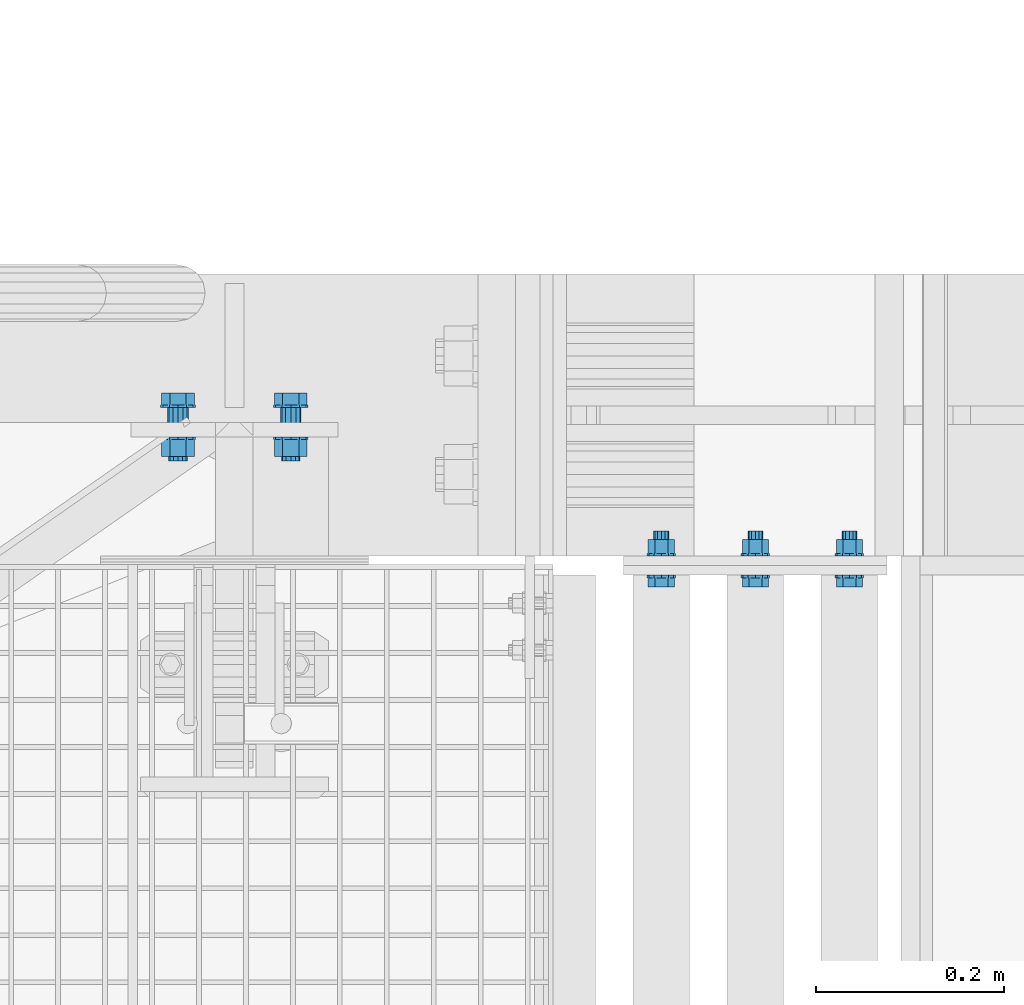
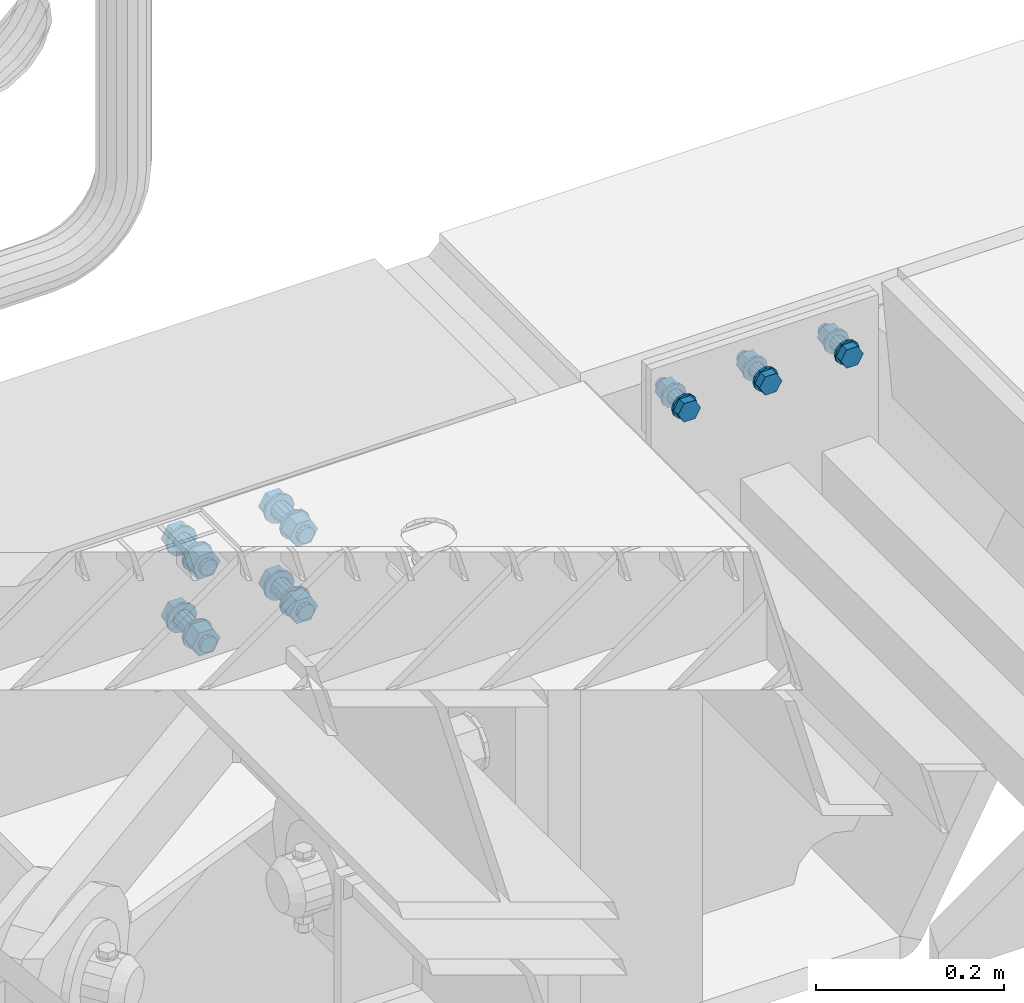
# One storey, part 59 of 1530: 2 mechanical fasteners.
"""IFC2X3 building model written with IfcOpenShell, lengths in millimetres."""

from ifc_helpers import new_model, si_unit, frame, origin_with_axes, place, context, subcontext, project, spatial, faceted_brep, source, transform, mapped, material, type_object, element, save


model = new_model("IFC2X3")

# Units and contexts
model_context = context("Model", 3, precision=1e-05, world=origin_with_axes())
body_context = subcontext(model_context, "Body", "Model", "MODEL_VIEW")
ifc_project = project(units=[si_unit("LENGTHUNIT", "METRE", prefix="MILLI"), si_unit("AREAUNIT", "SQUARE_METRE"), si_unit("VOLUMEUNIT", "CUBIC_METRE"), si_unit("MASSUNIT", "GRAM", prefix="KILO"), si_unit("TIMEUNIT", "SECOND"), si_unit("PLANEANGLEUNIT", "RADIAN"), si_unit("SOLIDANGLEUNIT", "STERADIAN"), si_unit("THERMODYNAMICTEMPERATUREUNIT", "DEGREE_CELSIUS"), si_unit("LUMINOUSINTENSITYUNIT", "LUMEN")], contexts=[model_context])

# Site, building, storey
site_placement = place(None, origin_with_axes())
site = spatial("IfcSite", under=ifc_project, at=site_placement, Name="Brattvåg", CompositionType="ELEMENT")
building_placement = place(site_placement, origin_with_axes())
building = spatial("IfcBuilding", under=site, at=building_placement, Name="Undefined", CompositionType="ELEMENT")
storey_placement = place(building_placement, origin_with_axes())
storey = spatial("IfcBuildingStorey", under=building, at=storey_placement, Name="Undefined", CompositionType="ELEMENT", Elevation=0.0)

# Mechanical fasteners
ifc_material = material(Name="8")
mechanical_fastener_type = type_object("IfcMechanicalFastenerType", Name="Bolt assembly")
shared_shape_1 = source(origin_with_axes(), body_context, "Body", "Brep", [
    faceted_brep([(13.856406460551, -13.0, 0.0), (6.92820323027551, -13.0, 12.0), (-6.92820323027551, -13.0, 12.0), (-13.856406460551, -13.0, 1.69692038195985e-15), (-6.92820323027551, -13.0, -12.0), (6.9282032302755, -13.0, -12.0), (6.9282032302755, -3.0, -12.0), (-6.92820323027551, -3.0, -12.0), (-13.856406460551, -3.0, 1.69692038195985e-15), (-6.92820323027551, -3.0, 12.0), (6.92820323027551, -3.0, 12.0), (13.856406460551, -3.0, 0.0), (8.0, -3.0, 0.0), (6.92820323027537, -3.0, 4.00000000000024), (3.99999999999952, -3.0, 6.92820323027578), (-8.29068785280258e-13, -3.0, 8.0), (-4.00000000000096, -3.0, 6.92820323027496), (-6.9282032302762, -3.0, 3.99999999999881), (-8.0, -3.0, -1.65813757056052e-12), (-6.92820323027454, -3.0, -4.00000000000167), (-3.99999999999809, -3.0, -6.92820323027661), (2.47832457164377e-12, -3.0, -8.0), (4.00000000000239, -3.0, -6.92820323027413), (6.92820323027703, -3.0, -3.99999999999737), (6.92820323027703, 47.0, -3.99999999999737), (4.00000000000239, 47.0, -6.92820323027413), (2.47832457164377e-12, 47.0, -8.0), (-3.99999999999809, 47.0, -6.92820323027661), (-6.92820323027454, 47.0, -4.00000000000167), (-8.0, 47.0, -1.65813757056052e-12), (-6.9282032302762, 47.0, 3.99999999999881), (-4.00000000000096, 47.0, 6.92820323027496), (-8.29068785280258e-13, 47.0, 8.0), (3.99999999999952, 47.0, 6.92820323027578), (6.92820323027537, 47.0, 4.00000000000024), (8.0, 47.0, 0.0), (15.0, -3.0, 0.0), (12.9903810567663, -3.0, 7.50000000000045), (7.4999999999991, -3.0, 12.9903810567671), (-1.55450397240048e-12, -3.0, 15.0), (-7.50000000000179, -3.0, 12.9903810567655), (-12.9903810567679, -3.0, 7.49999999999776), (-15.0, -3.0, -3.10900794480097e-12), (-12.9903810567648, -3.0, -7.50000000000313), (-7.49999999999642, -3.0, -12.9903810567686), (4.64685857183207e-12, -3.0, -15.0), (7.50000000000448, -3.0, -12.990381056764), (12.9903810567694, -3.0, -7.49999999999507), (12.9903810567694, 0.0, -7.49999999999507), (7.50000000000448, 0.0, -12.990381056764), (0.0, 0.0, -15.0), (-7.49999999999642, 0.0, -12.9903810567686), (-12.9903810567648, 0.0, -7.50000000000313), (-15.0, 0.0, -3.10900794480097e-12), (-12.9903810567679, 0.0, 7.49999999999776), (-7.50000000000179, 0.0, 12.9903810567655), (0.0, 0.0, 15.0), (7.4999999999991, 0.0, 12.9903810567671), (12.9903810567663, 0.0, 7.50000000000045), (15.0, 0.0, 0.0), (15.0, 20.0002288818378, 0.0), (12.9903810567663, 20.0002288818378, 7.50000000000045), (7.4999999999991, 20.0002288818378, 12.9903810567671), (-1.55450397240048e-12, 20.0002288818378, 15.0), (-7.50000000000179, 20.0002288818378, 12.9903810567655), (-12.9903810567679, 20.0002288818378, 7.49999999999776), (-15.0, 20.0002288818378, -3.10900794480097e-12), (-12.9903810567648, 20.0002288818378, -7.50000000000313), (-7.49999999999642, 20.0002288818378, -12.9903810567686), (4.64685857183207e-12, 20.0002288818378, -15.0), (7.50000000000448, 20.0002288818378, -12.990381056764), (12.9903810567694, 20.0002288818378, -7.49999999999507), (12.9903810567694, 23.0002288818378, -7.49999999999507), (7.50000000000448, 23.0002288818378, -12.990381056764), (4.64685857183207e-12, 23.0002288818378, -15.0), (-7.49999999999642, 23.0002288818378, -12.9903810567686), (-12.9903810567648, 23.0002288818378, -7.50000000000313), (-15.0, 23.0002288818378, -3.10900794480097e-12), (-12.9903810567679, 23.0002288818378, 7.49999999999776), (-7.50000000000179, 23.0002288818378, 12.9903810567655), (-1.55450397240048e-12, 23.0002288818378, 15.0), (7.4999999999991, 23.0002288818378, 12.9903810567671), (12.9903810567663, 23.0002288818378, 7.50000000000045), (15.0, 23.0002288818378, 0.0), (13.856406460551, 23.0002288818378, 0.0), (6.92820323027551, 23.0002288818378, 12.0), (-6.92820323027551, 23.0002288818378, 12.0), (-13.856406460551, 23.0002288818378, 1.69692038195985e-15), (-6.92820323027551, 23.0002288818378, -12.0), (6.9282032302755, 23.0002288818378, -12.0), (6.9282032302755, 37.8002290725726, -12.0), (-6.92820323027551, 37.8002290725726, -12.0), (-13.856406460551, 37.8002290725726, 1.69692038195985e-15), (-6.92820323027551, 37.8002290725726, 12.0), (6.92820323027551, 37.8002290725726, 12.0), (13.856406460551, 37.8002290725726, 0.0)], [[[0, 1, 2, 3, 4, 5]], [[6, 7, 8, 9, 10, 11]], [[0, 11, 10, 1]], [[1, 10, 9, 2]], [[2, 9, 8, 3]], [[3, 8, 7, 4]], [[4, 7, 6, 5]], [[5, 6, 11, 0]], [[12, 13, 14, 15, 16, 17, 18, 19, 20, 21, 22, 23]], [[24, 25, 26, 27, 28, 29, 30, 31, 32, 33, 34, 35]], [[12, 35, 34, 13]], [[13, 34, 33, 14]], [[14, 33, 32, 15]], [[15, 32, 31, 16]], [[16, 31, 30, 17]], [[17, 30, 29, 18]], [[18, 29, 28, 19]], [[19, 28, 27, 20]], [[20, 27, 26, 21]], [[21, 26, 25, 22]], [[22, 25, 24, 23]], [[23, 24, 35, 12]], [[36, 37, 38, 39, 40, 41, 42, 43, 44, 45, 46, 47]], [[48, 49, 50, 51, 52, 53, 54, 55, 56, 57, 58, 59]], [[36, 59, 58, 37]], [[37, 58, 57, 38]], [[38, 57, 56, 39]], [[39, 56, 55, 40]], [[40, 55, 54, 41]], [[41, 54, 53, 42]], [[42, 53, 52, 43]], [[43, 52, 51, 44]], [[44, 51, 50, 45]], [[45, 50, 49, 46]], [[46, 49, 48, 47]], [[47, 48, 59, 36]], [[60, 61, 62, 63, 64, 65, 66, 67, 68, 69, 70, 71]], [[72, 73, 74, 75, 76, 77, 78, 79, 80, 81, 82, 83]], [[60, 83, 82, 61]], [[61, 82, 81, 62]], [[62, 81, 80, 63]], [[63, 80, 79, 64]], [[64, 79, 78, 65]], [[65, 78, 77, 66]], [[66, 77, 76, 67]], [[67, 76, 75, 68]], [[68, 75, 74, 69]], [[69, 74, 73, 70]], [[70, 73, 72, 71]], [[71, 72, 83, 60]], [[84, 85, 86, 87, 88, 89]], [[90, 91, 92, 93, 94, 95]], [[84, 95, 94, 85]], [[85, 94, 93, 86]], [[86, 93, 92, 87]], [[87, 92, 91, 88]], [[88, 91, 90, 89]], [[89, 90, 95, 84]]]),
    faceted_brep([(9.0, 0.1, 0.0), (7.79422863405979, 0.1, 4.50000000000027), (4.49999999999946, 0.1, 7.79422863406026), (-9.3270238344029e-13, 0.1, 9.0), (-4.50000000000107, 0.1, 7.79422863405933), (-7.79422863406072, 0.1, 4.49999999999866), (-9.0, 0.1, -1.86540476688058e-12), (-7.79422863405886, 0.1, -4.50000000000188), (-4.49999999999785, 0.1, -7.79422863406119), (2.78811514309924e-12, 0.1, -9.0), (4.50000000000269, 0.1, -7.7942286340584), (7.79422863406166, 0.1, -4.49999999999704), (7.79422863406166, 10.1, -4.49999999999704), (4.50000000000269, 10.1, -7.7942286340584), (2.78811514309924e-12, 10.1, -9.0), (-4.49999999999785, 10.1, -7.79422863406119), (-7.79422863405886, 10.1, -4.50000000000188), (-9.0, 10.1, -1.86540476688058e-12), (-7.79422863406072, 10.1, 4.49999999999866), (-4.50000000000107, 10.1, 7.79422863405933), (-9.3270238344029e-13, 10.1, 9.0), (4.49999999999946, 10.1, 7.79422863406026), (7.79422863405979, 10.1, 4.50000000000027), (9.0, 10.1, 0.0), (9.0, 9.90022888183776, 0.0), (7.79422863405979, 9.90022888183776, 4.50000000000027), (4.49999999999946, 9.90022888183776, 7.79422863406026), (-9.3270238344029e-13, 9.90022888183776, 9.0), (-4.50000000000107, 9.90022888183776, 7.79422863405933), (-7.79422863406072, 9.90022888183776, 4.49999999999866), (-9.0, 9.90022888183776, -1.86540476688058e-12), (-7.79422863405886, 9.90022888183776, -4.50000000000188), (-4.49999999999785, 9.90022888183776, -7.79422863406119), (2.78811514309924e-12, 9.90022888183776, -9.0), (4.50000000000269, 9.90022888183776, -7.7942286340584), (7.79422863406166, 9.90022888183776, -4.49999999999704), (7.79422863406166, 20.0002288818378, -4.49999999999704), (4.50000000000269, 20.0002288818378, -7.7942286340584), (2.78811514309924e-12, 20.0002288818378, -9.0), (-4.49999999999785, 20.0002288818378, -7.79422863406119), (-7.79422863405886, 20.0002288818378, -4.50000000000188), (-9.0, 20.0002288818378, -1.86540476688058e-12), (-7.79422863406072, 20.0002288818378, 4.49999999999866), (-4.50000000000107, 20.0002288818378, 7.79422863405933), (-9.3270238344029e-13, 20.0002288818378, 9.0), (4.49999999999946, 20.0002288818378, 7.79422863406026), (7.79422863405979, 20.0002288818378, 4.50000000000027), (9.0, 20.0002288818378, 0.0)], [[[0, 1, 2, 3, 4, 5, 6, 7, 8, 9, 10, 11]], [[12, 13, 14, 15, 16, 17, 18, 19, 20, 21, 22, 23]], [[0, 23, 22, 1]], [[1, 22, 21, 2]], [[2, 21, 20, 3]], [[3, 20, 19, 4]], [[4, 19, 18, 5]], [[5, 18, 17, 6]], [[6, 17, 16, 7]], [[7, 16, 15, 8]], [[8, 15, 14, 9]], [[9, 14, 13, 10]], [[10, 13, 12, 11]], [[11, 12, 23, 0]], [[24, 25, 26, 27, 28, 29, 30, 31, 32, 33, 34, 35]], [[36, 37, 38, 39, 40, 41, 42, 43, 44, 45, 46, 47]], [[24, 47, 46, 25]], [[25, 46, 45, 26]], [[26, 45, 44, 27]], [[27, 44, 43, 28]], [[28, 43, 42, 29]], [[29, 42, 41, 30]], [[30, 41, 40, 31]], [[31, 40, 39, 32]], [[32, 39, 38, 33]], [[33, 38, 37, 34]], [[34, 37, 36, 35]], [[35, 36, 47, 24]]]),
])
mechanical_fastener_1_placement = place(storey_placement, frame((17011.9976854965, 8830.00032419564, -65.0000373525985), z_axis=(0.0, 0.0, 1.0), x_axis=(1.0, 0.0, 0.0)))
element("IfcMechanicalFastener", 1, at=mechanical_fastener_1_placement, inside=storey, type_object=mechanical_fastener_type, material=ifc_material, Name="Bolt assembly", NominalDiameter=16.0, NominalLength=50.0, context=body_context, shape_type="MappedRepresentation", body=[
    mapped(shared_shape_1, transform((0.0, 0.0, 0.0))),
    mapped(shared_shape_1, transform((100.0, 0.0, 0.0))),
    mapped(shared_shape_1, transform((200.0, 0.0, 0.0))),
])
shared_shape_2 = source(origin_with_axes(), body_context, "Body", "Brep", [
    faceted_brep([(17.3205080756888, -31.4985046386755, 0.0), (8.66025403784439, -31.4985046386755, 15.0), (-8.66025403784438, -31.4985046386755, 15.0), (-17.3205080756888, -31.4985046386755, 2.12115047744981e-15), (-8.66025403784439, -31.4985046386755, -15.0), (8.66025403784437, -31.4985046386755, -15.0), (8.66025403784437, -18.9985046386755, -15.0), (-8.66025403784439, -18.9985046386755, -15.0), (-17.3205080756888, -18.9985046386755, 2.12115047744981e-15), (-8.66025403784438, -18.9985046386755, 15.0), (8.66025403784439, -18.9985046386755, 15.0), (17.3205080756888, -18.9985046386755, 0.0), (10.0, -18.9985046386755, 0.0), (8.66025403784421, -18.9985046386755, 5.0000000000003), (4.9999999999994, -18.9985046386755, 8.66025403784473), (-1.03633598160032e-12, -18.9985046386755, 10.0), (-5.00000000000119, -18.9985046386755, 8.6602540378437), (-8.66025403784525, -18.9985046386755, 4.99999999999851), (-10.0, -18.9985046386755, -2.07267196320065e-12), (-8.66025403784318, -18.9985046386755, -5.00000000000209), (-4.99999999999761, -18.9985046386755, -8.66025403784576), (3.09790571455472e-12, -18.9985046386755, -10.0), (5.00000000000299, -18.9985046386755, -8.66025403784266), (8.66025403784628, -18.9985046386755, -4.99999999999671), (8.66025403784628, 41.0014953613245, -4.99999999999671), (5.00000000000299, 41.0014953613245, -8.66025403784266), (3.09790571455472e-12, 41.0014953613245, -10.0), (-4.99999999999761, 41.0014953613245, -8.66025403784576), (-8.66025403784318, 41.0014953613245, -5.00000000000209), (-10.0, 41.0014953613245, -2.07267196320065e-12), (-8.66025403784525, 41.0014953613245, 4.99999999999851), (-5.00000000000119, 41.0014953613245, 8.6602540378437), (-1.03633598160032e-12, 41.0014953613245, 10.0), (4.9999999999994, 41.0014953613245, 8.66025403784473), (8.66025403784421, 41.0014953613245, 5.0000000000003), (10.0, 41.0014953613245, 0.0), (18.5, -18.9985046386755, 0.0), (16.0214699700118, -18.9985046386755, 9.25000000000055), (9.2499999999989, -18.9985046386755, 16.0214699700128), (-1.9172215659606e-12, -18.9985046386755, 18.5), (-9.25000000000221, -18.9985046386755, 16.0214699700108), (-16.0214699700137, -18.9985046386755, 9.24999999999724), (-18.5, -18.9985046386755, -3.83444313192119e-12), (-16.0214699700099, -18.9985046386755, -9.25000000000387), (-9.24999999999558, -18.9985046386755, -16.0214699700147), (5.73112557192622e-12, -18.9985046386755, -18.5), (9.25000000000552, -18.9985046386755, -16.0214699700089), (16.0214699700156, -18.9985046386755, -9.24999999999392), (16.0214699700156, -15.9985046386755, -9.24999999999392), (9.25000000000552, -15.9985046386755, -16.0214699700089), (5.73112557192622e-12, -15.9985046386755, -18.5), (-9.24999999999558, -15.9985046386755, -16.0214699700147), (-16.0214699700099, -15.9985046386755, -9.25000000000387), (-18.5, -15.9985046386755, -3.83444313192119e-12), (-16.0214699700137, -15.9985046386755, 9.24999999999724), (-9.25000000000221, -15.9985046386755, 16.0214699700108), (-1.9172215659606e-12, -15.9985046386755, 18.5), (9.2499999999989, -15.9985046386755, 16.0214699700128), (16.0214699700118, -15.9985046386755, 9.25000000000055), (18.5, -15.9985046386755, 0.0), (18.5, 15.0000000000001, 0.0), (16.0214699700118, 15.0000000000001, 9.25000000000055), (9.2499999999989, 15.0000000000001, 16.0214699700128), (-1.9172215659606e-12, 15.0000000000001, 18.5), (-9.25000000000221, 15.0000000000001, 16.0214699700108), (-16.0214699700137, 15.0000000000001, 9.24999999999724), (-18.5, 15.0000000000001, -3.83444313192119e-12), (-16.0214699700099, 15.0000000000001, -9.25000000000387), (-9.24999999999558, 15.0000000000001, -16.0214699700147), (5.73112557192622e-12, 15.0000000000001, -18.5), (9.25000000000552, 15.0000000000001, -16.0214699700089), (16.0214699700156, 15.0000000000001, -9.24999999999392), (16.0214699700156, 18.0000000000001, -9.24999999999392), (9.25000000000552, 18.0000000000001, -16.0214699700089), (5.73112557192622e-12, 18.0000000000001, -18.5), (-9.24999999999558, 18.0000000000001, -16.0214699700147), (-16.0214699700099, 18.0000000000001, -9.25000000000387), (-18.5, 18.0000000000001, -3.83444313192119e-12), (-16.0214699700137, 18.0000000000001, 9.24999999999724), (-9.25000000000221, 18.0000000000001, 16.0214699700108), (-1.9172215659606e-12, 18.0000000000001, 18.5), (9.2499999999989, 18.0000000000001, 16.0214699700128), (16.0214699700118, 18.0000000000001, 9.25000000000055), (18.5, 18.0000000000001, 0.0), (17.3205080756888, 18.0000000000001, 0.0), (8.66025403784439, 18.0000000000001, 15.0), (-8.66025403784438, 18.0000000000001, 15.0), (-17.3205080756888, 18.0000000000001, 2.12115047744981e-15), (-8.66025403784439, 18.0000000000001, -15.0), (8.66025403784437, 18.0000000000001, -15.0), (8.66025403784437, 36.0000000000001, -15.0), (-8.66025403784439, 36.0000000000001, -15.0), (-17.3205080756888, 36.0000000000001, 2.12115047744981e-15), (-8.66025403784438, 36.0000000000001, 15.0), (8.66025403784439, 36.0000000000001, 15.0), (17.3205080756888, 36.0000000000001, 0.0)], [[[0, 1, 2, 3, 4, 5]], [[6, 7, 8, 9, 10, 11]], [[0, 11, 10, 1]], [[1, 10, 9, 2]], [[2, 9, 8, 3]], [[3, 8, 7, 4]], [[4, 7, 6, 5]], [[5, 6, 11, 0]], [[12, 13, 14, 15, 16, 17, 18, 19, 20, 21, 22, 23]], [[24, 25, 26, 27, 28, 29, 30, 31, 32, 33, 34, 35]], [[12, 35, 34, 13]], [[13, 34, 33, 14]], [[14, 33, 32, 15]], [[15, 32, 31, 16]], [[16, 31, 30, 17]], [[17, 30, 29, 18]], [[18, 29, 28, 19]], [[19, 28, 27, 20]], [[20, 27, 26, 21]], [[21, 26, 25, 22]], [[22, 25, 24, 23]], [[23, 24, 35, 12]], [[36, 37, 38, 39, 40, 41, 42, 43, 44, 45, 46, 47]], [[48, 49, 50, 51, 52, 53, 54, 55, 56, 57, 58, 59]], [[36, 59, 58, 37]], [[37, 58, 57, 38]], [[38, 57, 56, 39]], [[39, 56, 55, 40]], [[40, 55, 54, 41]], [[41, 54, 53, 42]], [[42, 53, 52, 43]], [[43, 52, 51, 44]], [[44, 51, 50, 45]], [[45, 50, 49, 46]], [[46, 49, 48, 47]], [[47, 48, 59, 36]], [[60, 61, 62, 63, 64, 65, 66, 67, 68, 69, 70, 71]], [[72, 73, 74, 75, 76, 77, 78, 79, 80, 81, 82, 83]], [[60, 83, 82, 61]], [[61, 82, 81, 62]], [[62, 81, 80, 63]], [[63, 80, 79, 64]], [[64, 79, 78, 65]], [[65, 78, 77, 66]], [[66, 77, 76, 67]], [[67, 76, 75, 68]], [[68, 75, 74, 69]], [[69, 74, 73, 70]], [[70, 73, 72, 71]], [[71, 72, 83, 60]], [[84, 85, 86, 87, 88, 89]], [[90, 91, 92, 93, 94, 95]], [[84, 95, 94, 85]], [[85, 94, 93, 86]], [[86, 93, 92, 87]], [[87, 92, 91, 88]], [[88, 91, 90, 89]], [[89, 90, 95, 84]]]),
    faceted_brep([(11.0, -15.8985046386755, 0.0), (9.52627944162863, -15.8985046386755, 5.50000000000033), (5.49999999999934, -15.8985046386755, 9.5262794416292), (-1.13996957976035e-12, -15.8985046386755, 11.0), (-5.50000000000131, -15.8985046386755, 9.52627944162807), (-9.52627944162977, -15.8985046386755, 5.49999999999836), (-11.0, -15.8985046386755, -2.27993915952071e-12), (-9.5262794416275, -15.8985046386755, -5.5000000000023), (-5.49999999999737, -15.8985046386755, -9.52627944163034), (3.40769628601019e-12, -15.8985046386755, -11.0), (5.50000000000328, -15.8985046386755, -9.52627944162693), (9.52627944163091, -15.8985046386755, -5.49999999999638), (9.52627944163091, 0.101495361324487, -5.49999999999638), (5.50000000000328, 0.101495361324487, -9.52627944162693), (3.40769628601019e-12, 0.101495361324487, -11.0), (-5.49999999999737, 0.101495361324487, -9.52627944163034), (-9.5262794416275, 0.101495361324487, -5.5000000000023), (-11.0, 0.101495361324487, -2.27993915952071e-12), (-9.52627944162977, 0.101495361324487, 5.49999999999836), (-5.50000000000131, 0.101495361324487, 9.52627944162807), (-1.13996957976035e-12, 0.101495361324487, 11.0), (5.49999999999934, 0.101495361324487, 9.5262794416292), (9.52627944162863, 0.101495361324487, 5.50000000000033), (11.0, 0.101495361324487, 0.0), (11.0, -0.1, 0.0), (9.52627944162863, -0.1, 5.50000000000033), (5.49999999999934, -0.1, 9.5262794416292), (-1.13996957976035e-12, -0.1, 11.0), (-5.50000000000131, -0.1, 9.52627944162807), (-9.52627944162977, -0.1, 5.49999999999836), (-11.0, -0.1, -2.27993915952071e-12), (-9.5262794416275, -0.1, -5.5000000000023), (-5.49999999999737, -0.1, -9.52627944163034), (3.40769628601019e-12, -0.1, -11.0), (5.50000000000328, -0.1, -9.52627944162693), (9.52627944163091, -0.1, -5.49999999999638), (9.52627944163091, 15.0000000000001, -5.49999999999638), (5.50000000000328, 15.0000000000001, -9.52627944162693), (3.40769628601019e-12, 15.0000000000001, -11.0), (-5.49999999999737, 15.0000000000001, -9.52627944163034), (-9.5262794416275, 15.0000000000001, -5.5000000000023), (-11.0, 15.0000000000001, -2.27993915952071e-12), (-9.52627944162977, 15.0000000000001, 5.49999999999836), (-5.50000000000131, 15.0000000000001, 9.52627944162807), (-1.13996957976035e-12, 15.0000000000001, 11.0), (5.49999999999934, 15.0000000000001, 9.5262794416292), (9.52627944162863, 15.0000000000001, 5.50000000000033), (11.0, 15.0000000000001, 0.0)], [[[0, 1, 2, 3, 4, 5, 6, 7, 8, 9, 10, 11]], [[12, 13, 14, 15, 16, 17, 18, 19, 20, 21, 22, 23]], [[0, 23, 22, 1]], [[1, 22, 21, 2]], [[2, 21, 20, 3]], [[3, 20, 19, 4]], [[4, 19, 18, 5]], [[5, 18, 17, 6]], [[6, 17, 16, 7]], [[7, 16, 15, 8]], [[8, 15, 14, 9]], [[9, 14, 13, 10]], [[10, 13, 12, 11]], [[11, 12, 23, 0]], [[24, 25, 26, 27, 28, 29, 30, 31, 32, 33, 34, 35]], [[36, 37, 38, 39, 40, 41, 42, 43, 44, 45, 46, 47]], [[24, 47, 46, 25]], [[25, 46, 45, 26]], [[26, 45, 44, 27]], [[27, 44, 43, 28]], [[28, 43, 42, 29]], [[29, 42, 41, 30]], [[30, 41, 40, 31]], [[31, 40, 39, 32]], [[32, 39, 38, 33]], [[33, 38, 37, 34]], [[34, 37, 36, 35]], [[35, 36, 47, 24]]]),
])
mechanical_fastener_2_placement = place(storey_placement, frame((16618.0019683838, 8992.00149536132, -219.998836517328), z_axis=(0.0, 0.0, 1.0), x_axis=(-1.0, 1.99999855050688e-09, 0.0)))
element("IfcMechanicalFastener", 2, at=mechanical_fastener_2_placement, inside=storey, type_object=mechanical_fastener_type, material=ifc_material, Name="Bolt assembly", NominalDiameter=20.0, NominalLength=60.0, context=body_context, shape_type="MappedRepresentation", body=[
    mapped(shared_shape_2, transform((0.0, 0.0, -50.0))),
    mapped(shared_shape_2, transform((120.0, 0.0, -50.0))),
    mapped(shared_shape_2, transform((0.0, 0.0, 50.0))),
    mapped(shared_shape_2, transform((120.0, 0.0, 50.0))),
])

save(model, "model.ifc")
